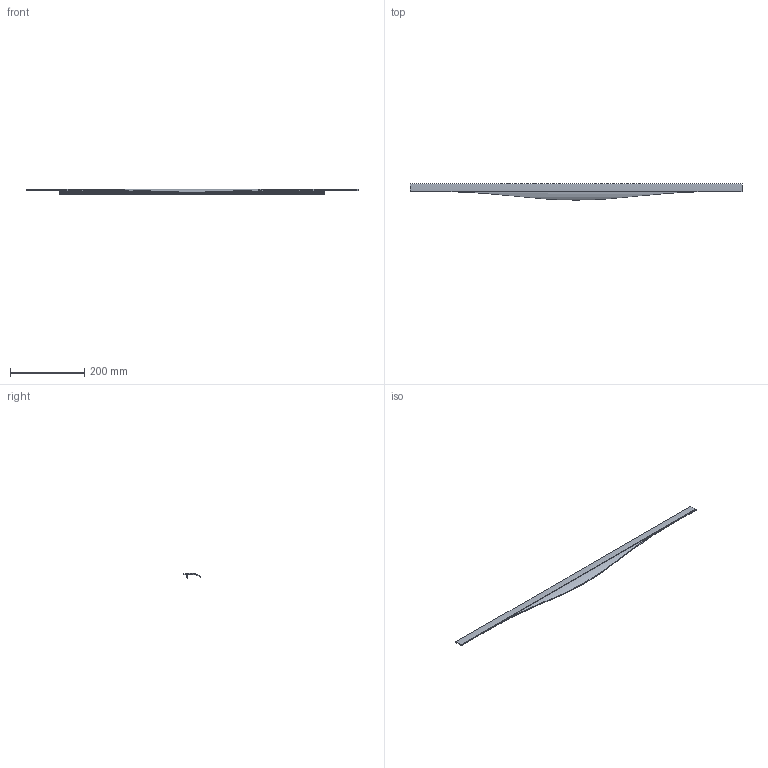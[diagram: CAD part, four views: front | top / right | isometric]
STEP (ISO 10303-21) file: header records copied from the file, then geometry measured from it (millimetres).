
FILE_DESCRIPTION( ( 'STEP AP214' ), '1' );
FILE_NAME( 'C:/Users/swati/Desktop/04-03-2016/9210061/9210061.stp', ' ', ( ' ' ), ( ' ' ), 'PSStep 15.0.47', 'PARTsolutions', ' ' );
FILE_SCHEMA( ( 'AUTOMOTIVE_DESIGN { 1 0 10303 214 1 1 1 1 }' ) );
Length unit declared in the file: millimetre
Products named in the file (2): 95 ; _
Assembly tree (1 placements, depth 2):
  95 
    _
Bounding box: 895 x 43.67 x 14 mm (x, y, z)
Volume: 85680 mm3; surface area: 77516 mm2
Topology: 1 solids, 1 shells, 32 faces, 87 edges, 58 vertices
Faces by surface type: plane 25, cylinder 7
Entity records: 1353 total; most frequent: CARTESIAN_POINT 257, ORIENTED_EDGE 174, DIRECTION 153, EDGE_CURVE 87, LINE 73, VECTOR 73, VERTEX_POINT 58, AXIS2_PLACEMENT_3D 40
